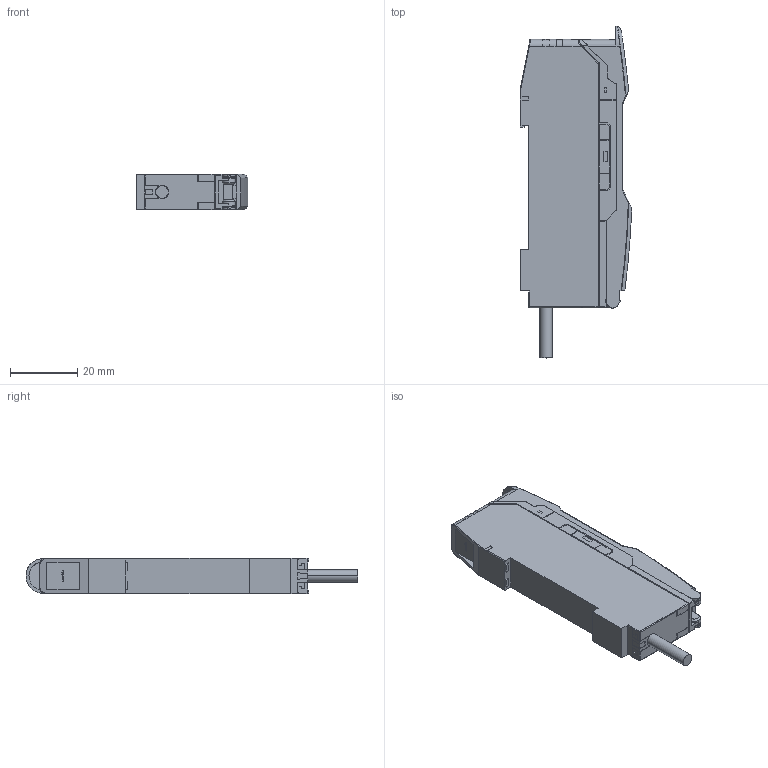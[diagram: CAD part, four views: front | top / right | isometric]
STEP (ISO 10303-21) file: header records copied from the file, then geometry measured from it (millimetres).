
FILE_DESCRIPTION((''),'2;1');
FILE_NAME('FS-G40','2024-06-29T10:35:27',('admin'),(''),'CREO PARAMETRIC BY PTC INC, 2020154','CREO PARAMETRIC BY PTC INC, 2020154','');
FILE_SCHEMA(('CONFIG_CONTROL_DESIGN'));
Length unit declared in the file: millimetre
Products named in the file (1): FS-G40
Bounding box: 33.24 x 98.99 x 10.7 mm (x, y, z)
Volume: 24387.3 mm3; surface area: 9575.3 mm2
Topology: 1 solids, 5 shells, 688 faces, 1879 edges, 1214 vertices
Faces by surface type: plane 463, cylinder 131, cone 43, bspline 27, sphere 14, torus 10
Entity records: 23324 total; most frequent: CARTESIAN_POINT 6410, ORIENTED_EDGE 3746, DIRECTION 3116, EDGE_CURVE 1873, VECTOR 1388, LINE 1388, VERTEX_POINT 1214, AXIS2_PLACEMENT_3D 864
